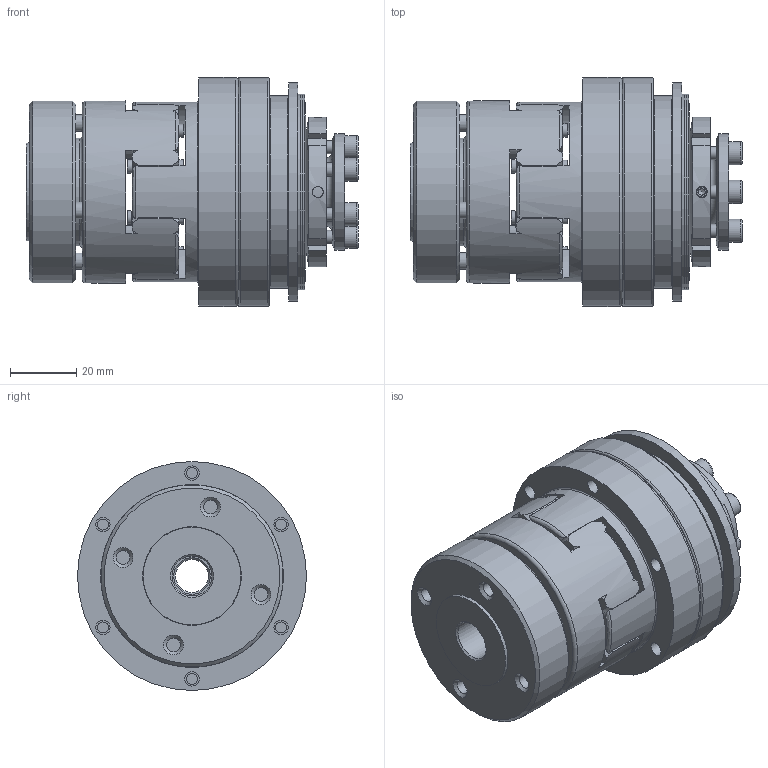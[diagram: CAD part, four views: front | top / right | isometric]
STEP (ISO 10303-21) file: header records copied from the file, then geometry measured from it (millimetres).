
FILE_DESCRIPTION( ( 'Unknown' ), '1' );
FILE_NAME( 'F:/JAKOB-STEP+IGES-Dateien/STEP-Dateien/SKY-ES/SKY-ES 45.stp', 'Unknown', ( 'Unknown' ), ( 'Unknown' ), 'PSStep 10.1', 'Unknown', ' ' );
FILE_SCHEMA( ( 'AUTOMOTIVE_DESIGN { 1 0 10303 214 1 1 1 1 }' ) );
Length unit declared in the file: millimetre
Products named in the file (2): KT101926
Bounding box: 100 x 69 x 69 mm (x, y, z)
Volume: 192418.7 mm3; surface area: 75397.4 mm2
Topology: 2 solids, 10 shells, 819 faces, 2245 edges, 1465 vertices
Faces by surface type: plane 371, cylinder 186, cone 117, torus 73, extrusion 60, sphere 12
Full cylindrical faces by diameter (mm): 2 x2, 3.3 x11, 3.4 x6, 4 x14, 4.2 x8, 4.3 x6, 4.6 x6, 5 x4, 5.4 x4, 7 x6, 8.5 x4, 9 x4, 10 x1, 12 x1, 12.5 x1, 18.1 x1, 20.5 x1, 27 x2, 28.6 x1, 29.8 x1, 30 x3, 32.5 x1, 35 x3, 35.2 x1, 36 x1, 38.2 x2, 38.893 x1, 39.293 x1, 43 x1, 47.1 x3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
Entity records: 32734 total; most frequent: CARTESIAN_POINT 7356, DIRECTION 3739, ORIENTED_EDGE 3684, EDGE_CURVE 1842, AXIS2_PLACEMENT_3D 1469, VERTEX_POINT 1306, EDGE_LOOP 1184, FACE_OUTER_BOUND 952
